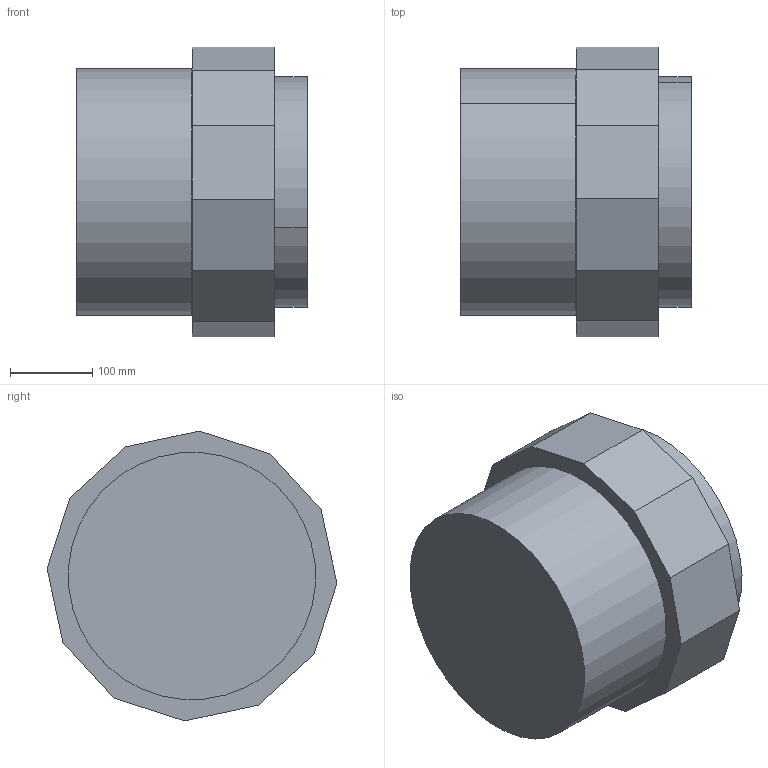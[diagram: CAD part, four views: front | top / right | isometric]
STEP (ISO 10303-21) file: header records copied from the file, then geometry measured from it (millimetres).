
FILE_DESCRIPTION(('CATIA V5 STEP Exchange'),'2;1');
FILE_NAME('D:\Clients_NCS8\Cenit-AG\Import\OKUMA250\Turret.stp','2005-03-09T16:52:04+00:00',('none'),('none'),'CATIA Version 5 Release 14 (IN-10)','CATIA V5 STEP AP203','none');
FILE_SCHEMA(('CONFIG_CONTROL_DESIGN'));
Length unit declared in the file: millimetre
Products named in the file (2): okuma_dr-fr; Okuma_revolver_X
Assembly tree (3 placements, depth 3):
  okuma_dr-fr
    Okuma_revolver_X
      #62
      #166
Bounding box: 280 x 351.57 x 351.57 mm (x, y, z)
Volume: 21651503.5 mm3; surface area: 603677.2 mm2
Topology: 2 solids, 2 shells, 21 faces, 48 edges, 32 vertices
Faces by surface type: plane 17, cylinder 4
Entity records: 676 total; most frequent: CARTESIAN_POINT 105, DIRECTION 98, ORIENTED_EDGE 96, EDGE_CURVE 48, VECTOR 40, LINE 40, AXIS2_PLACEMENT_3D 33, VERTEX_POINT 32
